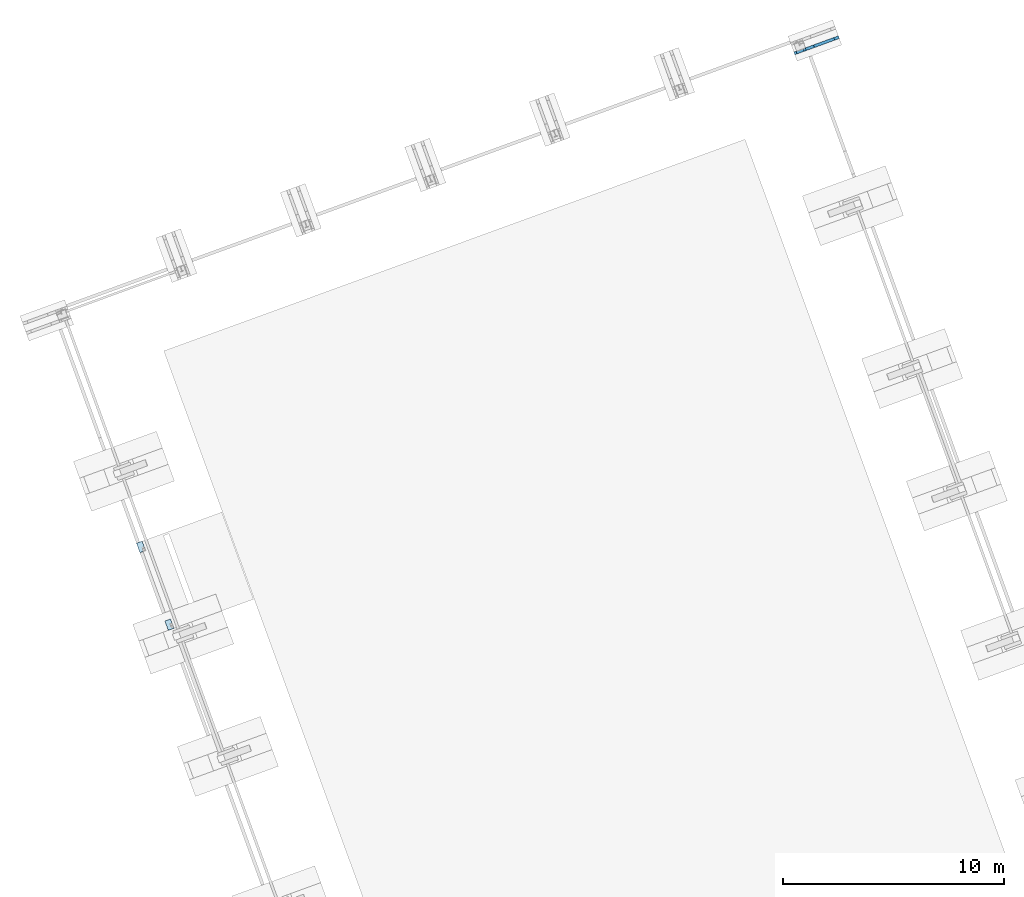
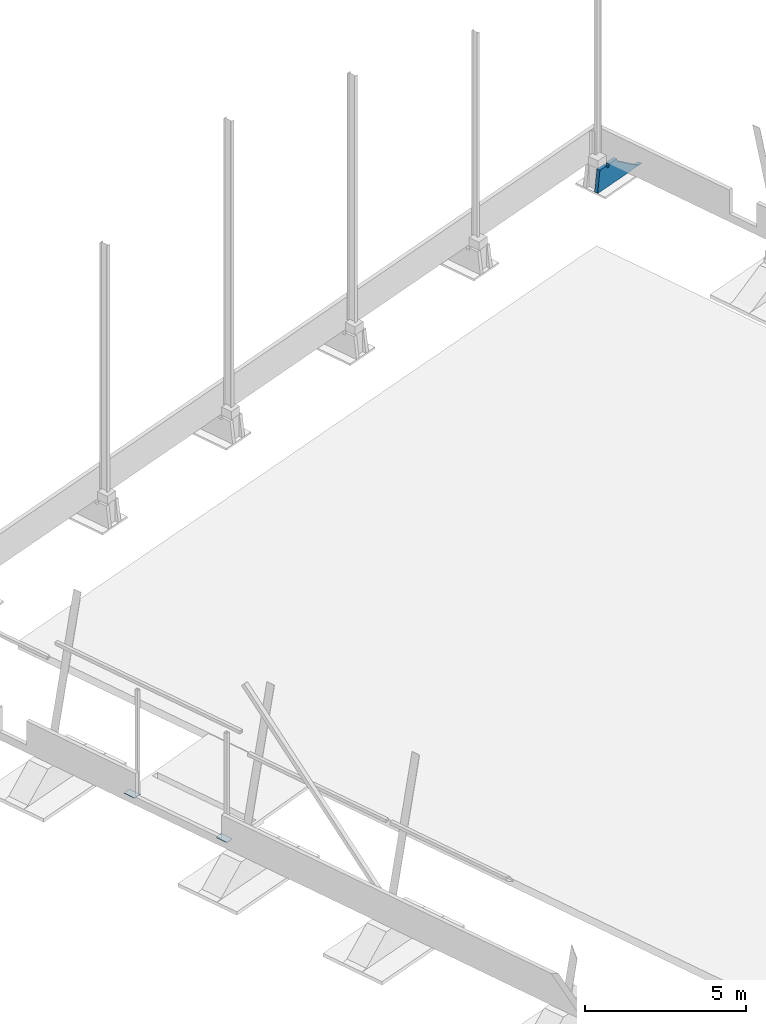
# One storey, part 14 of 20: 3 slabs, 3 elements without a shape of their own.
"""IFC4 building model written with IfcOpenShell, lengths in millimetres."""

from ifc_helpers import new_model, si_unit, direction, frame, origin_with_axes, place, context, subcontext, project, spatial, line, indexed_curve, outline, extrude, material, element, aggregate, save


model = new_model("IFC4")

# Units and contexts
model_context = context("Model", 3, precision=0.2, world=frame((203566.813, 116264.779, 0.0), z_axis=(0.0, 0.0, 1.0), x_axis=(1.0, 0.0, 0.0)), true_north=direction((-0.9396138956, -0.3422363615)))
body_context = subcontext(model_context, "Body", "Model", "MODEL_VIEW")
ifc_project = project(units=[si_unit("LENGTHUNIT", "METRE", prefix="MILLI"), si_unit("AREAUNIT", "SQUARE_METRE"), si_unit("VOLUMEUNIT", "CUBIC_METRE"), si_unit("MASSUNIT", "GRAM", prefix="KILO"), si_unit("TIMEUNIT", "SECOND"), si_unit("PLANEANGLEUNIT", "RADIAN"), si_unit("SOLIDANGLEUNIT", "STERADIAN"), si_unit("THERMODYNAMICTEMPERATUREUNIT", "DEGREE_CELSIUS"), si_unit("LUMINOUSINTENSITYUNIT", "LUMEN")], contexts=[model_context])

# Site, building, storey
site_placement = place(None, origin_with_axes())
site = spatial("IfcSite", under=ifc_project, at=site_placement, Name="Nobelprojektet", CompositionType="ELEMENT")
building_placement = place(site_placement, origin_with_axes())
building = spatial("IfcBuilding", under=site, at=building_placement, Name="Hall B", CompositionType="ELEMENT")
storey_placement = place(building_placement, frame((0.0, 0.0, 1000.0), z_axis=(0.0, 0.0, 1.0), x_axis=(1.0, 0.0, 0.0)))
storey = spatial("IfcBuildingStorey", under=building, at=storey_placement, Name="Plan_1", CompositionType="ELEMENT", Elevation=1000.0)

# Assembly, slab
assembly_1_placement = place(storey_placement, frame((163810.60574, 186226.57928, 131049.99996), z_axis=(0.3422371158, -0.9396136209, 1.3e-09), x_axis=(-0.9257183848, -0.3371760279, 0.171341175)))
assembly_1 = element("IfcElementAssembly", 1, at=assembly_1_placement, inside=storey, Name="BEF_GRUND", PredefinedType="NOTDEFINED")
ifc_material = material(Name="C25/30", Category="CONCRETE")
slab_1_placement = place(assembly_1_placement, origin_with_axes())
slab_1 = element("IfcSlab", 2, at=slab_1_placement, material=ifc_material, Name="BEF_GRUND", PredefinedType="NOTDEFINED", context=body_context, shape_type="SolidModel", body=[
    extrude(outline(indexed_curve([(0.0, 0.0), (233.45235, 0.0), (1303.30665, -502.11531), (1328.66514, -601.23618), (1710.9273, -534.75581), (1693.79318, -436.23463), (1800.19605, -417.72978), (1821.27102, -515.56559), (2151.31695, -458.1663), (2118.21429, 368.38509)], segments=[line(1, 2, 3, 4, 5, 6, 7, 8, 9, 10, 1)])), frame((0.0, 0.0, 65.0), z_axis=(0.0, 0.0, 1.0), x_axis=(1.0, 0.0, 0.0)), (0.0, 0.0, -1.0), 130.0),
])
aggregate(assembly_1, [slab_1])

assembly_2_placement = place(storey_placement, frame((132327.15546, 163184.86959, 132129.99996), z_axis=(-0.3422371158, 0.9396136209, 1.3e-09), x_axis=(-0.9381657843, -0.3417133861, -0.055470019)))
assembly_2 = element("IfcElementAssembly", 3, at=assembly_2_placement, inside=storey, Name="BJÄLKLAG", PredefinedType="NOTDEFINED")
slab_2_placement = place(assembly_2_placement, origin_with_axes())
slab_2 = element("IfcSlab", 4, at=slab_2_placement, material=ifc_material, Name="BEFINTLIG", PredefinedType="NOTDEFINED", context=body_context, shape_type="SolidModel", body=[
    extrude(outline(indexed_curve([(0.0, 0.0), (270.41635, 0.0), (269.5843, 14.97691)], segments=[line(1, 2, 3, 1)])), frame((0.0, 0.0, 225.0), z_axis=(0.0, 0.0, 1.0), x_axis=(1.0, 0.0, 0.0)), (0.0, 0.0, -1.0), 450.0),
])
aggregate(assembly_2, [slab_2])

assembly_3_placement = place(storey_placement, frame((133610.55664, 159661.32288, 132129.99996), z_axis=(-0.3422371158, 0.9396136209, 1.3e-09), x_axis=(-0.9381657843, -0.3417133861, -0.055470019)))
assembly_3 = element("IfcElementAssembly", 5, at=assembly_3_placement, inside=storey, Name="BEFINTLIG", PredefinedType="NOTDEFINED")
slab_3_placement = place(assembly_3_placement, origin_with_axes())
slab_3 = element("IfcSlab", 6, at=slab_3_placement, material=ifc_material, Name="BEFINTLIG", PredefinedType="NOTDEFINED", context=body_context, shape_type="SolidModel", body=[
    extrude(outline(indexed_curve([(0.0, 0.0), (270.41635, 0.0), (269.5843, 14.97691)], segments=[line(1, 2, 3, 1)])), frame((0.0, 0.0, 225.0), z_axis=(0.0, 0.0, 1.0), x_axis=(1.0, 0.0, 0.0)), (0.0, 0.0, -1.0), 450.0),
])
aggregate(assembly_3, [slab_3])

save(model, "model.ifc")
